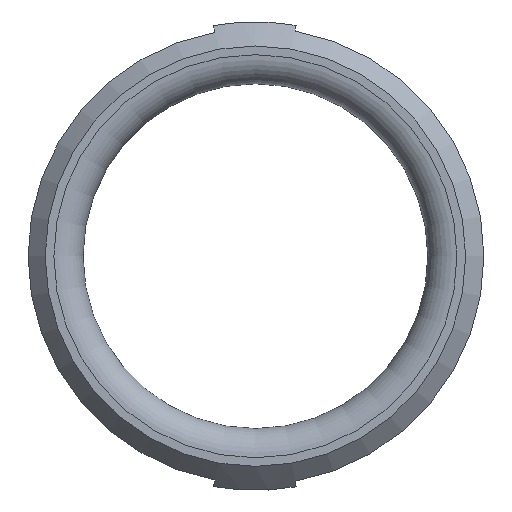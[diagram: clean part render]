
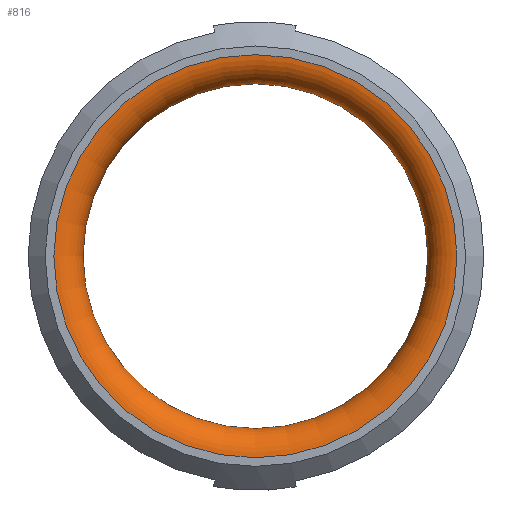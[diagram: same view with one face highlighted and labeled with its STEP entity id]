
A CAD part, left-side view. The second image highlights one B-rep face of the part: STEP entity #816.
In plain terms, the highlighted toroidal (fillet/blend) face has major radius 43.204 mm and minor radius 6.25 mm.
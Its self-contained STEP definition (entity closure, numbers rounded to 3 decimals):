
#30=TOROIDAL_SURFACE('',#884,43.204,6.25);
#48=CIRCLE('',#885,36.954);
#49=CIRCLE('',#886,6.25);
#50=CIRCLE('',#887,43.204);
#51=CIRCLE('',#888,43.204);
#52=CIRCLE('',#889,43.204);
#53=CIRCLE('',#890,36.954);
#54=CIRCLE('',#891,36.954);
#97=FACE_OUTER_BOUND('',#143,.T.);
#143=EDGE_LOOP('',(#607,#608,#609,#610,#611,#612,#613,#614));
#373=VERTEX_POINT('',#1401);
#374=VERTEX_POINT('',#1402);
#375=VERTEX_POINT('',#1404);
#376=VERTEX_POINT('',#1406);
#377=VERTEX_POINT('',#1408);
#378=VERTEX_POINT('',#1411);
#466=EDGE_CURVE('',#373,#374,#48,.T.);
#467=EDGE_CURVE('',#374,#375,#49,.T.);
#468=EDGE_CURVE('',#375,#376,#50,.T.);
#469=EDGE_CURVE('',#376,#377,#51,.T.);
#470=EDGE_CURVE('',#377,#375,#52,.T.);
#471=EDGE_CURVE('',#374,#378,#53,.T.);
#472=EDGE_CURVE('',#378,#373,#54,.T.);
#607=ORIENTED_EDGE('',*,*,#466,.T.);
#608=ORIENTED_EDGE('',*,*,#467,.T.);
#609=ORIENTED_EDGE('',*,*,#468,.T.);
#610=ORIENTED_EDGE('',*,*,#469,.T.);
#611=ORIENTED_EDGE('',*,*,#470,.T.);
#612=ORIENTED_EDGE('',*,*,#467,.F.);
#613=ORIENTED_EDGE('',*,*,#471,.T.);
#614=ORIENTED_EDGE('',*,*,#472,.T.);
#816=ADVANCED_FACE('',(#97),#30,.T.);
#884=AXIS2_PLACEMENT_3D('',#1400,#1011,#1012);
#885=AXIS2_PLACEMENT_3D('',#1403,#1013,#1014);
#886=AXIS2_PLACEMENT_3D('',#1405,#1015,#1016);
#887=AXIS2_PLACEMENT_3D('',#1407,#1017,#1018);
#888=AXIS2_PLACEMENT_3D('',#1409,#1019,#1020);
#889=AXIS2_PLACEMENT_3D('',#1410,#1021,#1022);
#890=AXIS2_PLACEMENT_3D('',#1412,#1023,#1024);
#891=AXIS2_PLACEMENT_3D('',#1413,#1025,#1026);
#1011=DIRECTION('center_axis',(-1.,0.,0.));
#1012=DIRECTION('ref_axis',(0.,0.,1.));
#1013=DIRECTION('center_axis',(1.,0.,0.));
#1014=DIRECTION('ref_axis',(0.,0.,-1.));
#1015=DIRECTION('center_axis',(0.,-1.,0.));
#1016=DIRECTION('ref_axis',(0.,0.,-1.));
#1017=DIRECTION('center_axis',(-1.,0.,0.));
#1018=DIRECTION('ref_axis',(0.,0.,-1.));
#1019=DIRECTION('center_axis',(-1.,0.,0.));
#1020=DIRECTION('ref_axis',(0.,0.,1.));
#1021=DIRECTION('center_axis',(-1.,0.,0.));
#1022=DIRECTION('ref_axis',(0.,0.,-1.));
#1023=DIRECTION('center_axis',(1.,0.,0.));
#1024=DIRECTION('ref_axis',(0.,0.,-1.));
#1025=DIRECTION('center_axis',(1.,0.,0.));
#1026=DIRECTION('ref_axis',(0.,0.,1.));
#1400=CARTESIAN_POINT('Origin',(173.058,38.245,-9.591));
#1401=CARTESIAN_POINT('',(173.058,1.291,-9.591));
#1402=CARTESIAN_POINT('',(173.058,38.245,-46.545));
#1403=CARTESIAN_POINT('Origin',(173.058,38.245,-9.591));
#1404=CARTESIAN_POINT('',(166.808,38.245,-52.795));
#1405=CARTESIAN_POINT('Origin',(173.058,38.245,-52.795));
#1406=CARTESIAN_POINT('',(166.808,-4.959,-9.591));
#1407=CARTESIAN_POINT('Origin',(166.808,38.245,-9.591));
#1408=CARTESIAN_POINT('',(166.808,81.448,-9.591));
#1409=CARTESIAN_POINT('Origin',(166.808,38.245,-9.591));
#1410=CARTESIAN_POINT('Origin',(166.808,38.245,-9.591));
#1411=CARTESIAN_POINT('',(173.058,75.198,-9.591));
#1412=CARTESIAN_POINT('Origin',(173.058,38.245,-9.591));
#1413=CARTESIAN_POINT('Origin',(173.058,38.245,-9.591));
